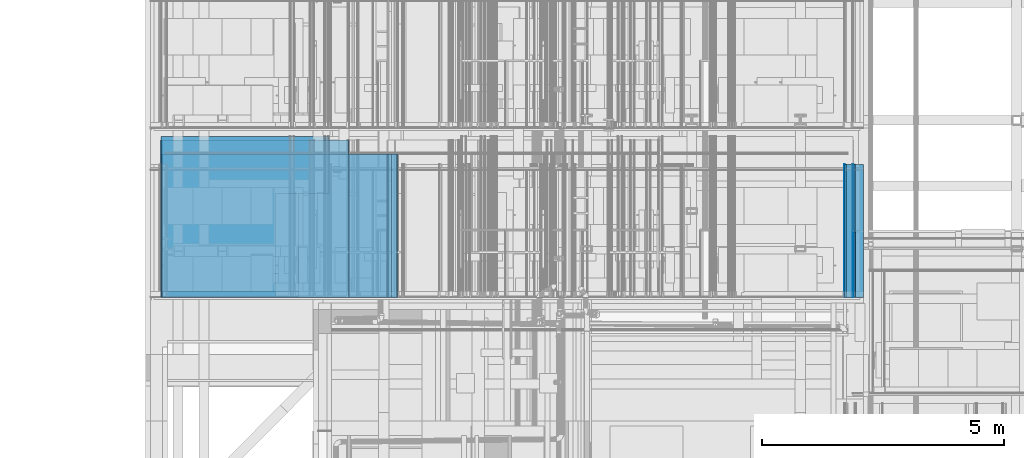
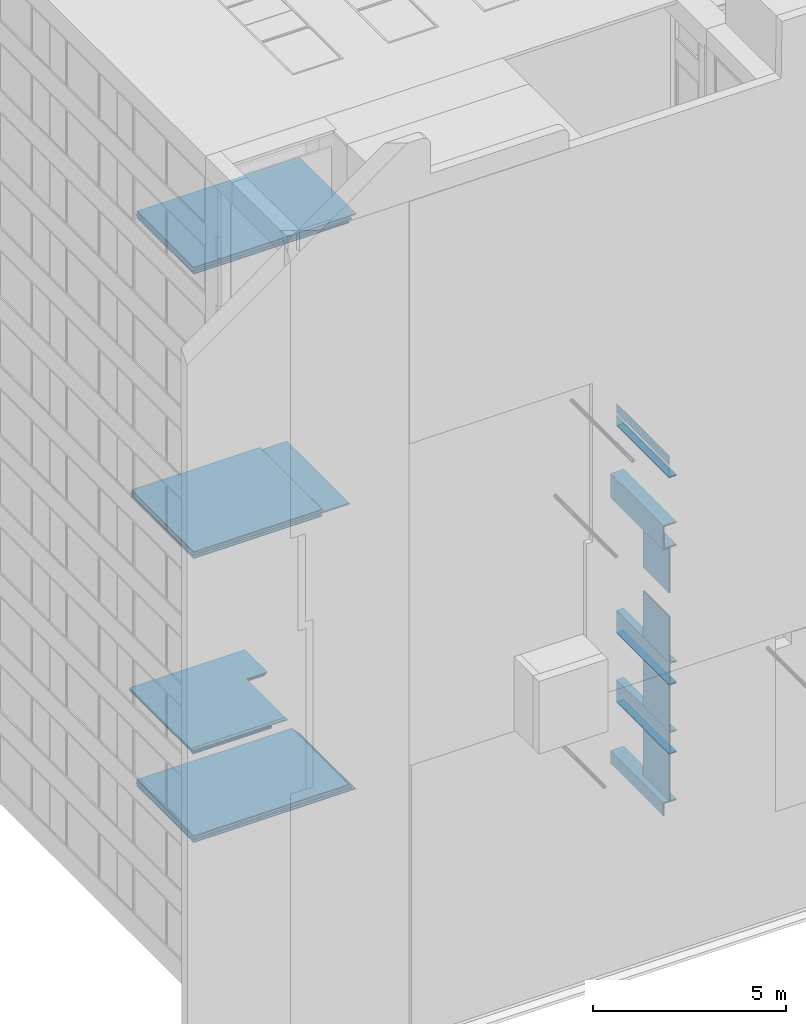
# One storey, part 56 of 583: 54 building element parts, 3 openings, 21 elements without a shape of their own.
"""IFC2X3 building model written with IfcOpenShell, lengths in metres."""

from ifc_helpers import new_model, entity, si_unit, converted_unit, derived_unit, money_unit, direction, frame, frame_2d, origin_with_axes, place, context, subcontext, project, spatial, polyline, rectangle, outline, extrude, material, type_object, element, aggregate, save


model = new_model("IFC2X3")

# Units and contexts
model_context = context("Model", 3, precision=1e-05, world=origin_with_axes(), true_north=direction((0.0, 1.0)))
body_context = subcontext(model_context, "Body", "Model", "MODEL_VIEW", scale=1.0)
ifc_project = project(units=[si_unit("LENGTHUNIT", "METRE"), si_unit("AREAUNIT", "SQUARE_METRE"), si_unit("VOLUMEUNIT", "CUBIC_METRE"), si_unit("ABSORBEDDOSEUNIT", "GRAY"), si_unit("AMOUNTOFSUBSTANCEUNIT", "MOLE"), si_unit("DOSEEQUIVALENTUNIT", "SIEVERT"), si_unit("ELECTRICCAPACITANCEUNIT", "FARAD"), si_unit("ELECTRICCHARGEUNIT", "COULOMB"), si_unit("ELECTRICCONDUCTANCEUNIT", "SIEMENS"), si_unit("ELECTRICCURRENTUNIT", "AMPERE"), si_unit("ELECTRICRESISTANCEUNIT", "OHM"), si_unit("ELECTRICVOLTAGEUNIT", "VOLT"), si_unit("ENERGYUNIT", "JOULE"), si_unit("FORCEUNIT", "NEWTON"), si_unit("FREQUENCYUNIT", "HERTZ"), si_unit("ILLUMINANCEUNIT", "LUX"), si_unit("INDUCTANCEUNIT", "HENRY"), si_unit("LUMINOUSFLUXUNIT", "LUMEN"), si_unit("LUMINOUSINTENSITYUNIT", "CANDELA"), si_unit("MAGNETICFLUXDENSITYUNIT", "TESLA"), si_unit("MAGNETICFLUXUNIT", "WEBER"), si_unit("MASSUNIT", "GRAM"), converted_unit("PLANEANGLEUNIT", "degree", entity("IfcReal", 0.0174532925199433), si_unit("PLANEANGLEUNIT", "RADIAN"), dimensions=[0, 0, 0, 0, 0, 0, 0]), si_unit("POWERUNIT", "WATT"), si_unit("PRESSUREUNIT", "PASCAL"), si_unit("RADIOACTIVITYUNIT", "BECQUEREL"), si_unit("SOLIDANGLEUNIT", "STERADIAN"), si_unit("THERMODYNAMICTEMPERATUREUNIT", "KELVIN"), si_unit("TIMEUNIT", "SECOND"), derived_unit("ACCELERATIONUNIT", [(si_unit("LENGTHUNIT", "METRE"), 1), (si_unit("TIMEUNIT", "SECOND"), -2)]), derived_unit("ANGULARVELOCITYUNIT", [(converted_unit("PLANEANGLEUNIT", "degree", entity("IfcReal", 0.0174532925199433), si_unit("PLANEANGLEUNIT", "RADIAN"), dimensions=[0, 0, 0, 0, 0, 0, 0]), 1), (si_unit("TIMEUNIT", "SECOND"), -1)]), derived_unit("CURVATUREUNIT", [(converted_unit("PLANEANGLEUNIT", "degree", entity("IfcReal", 0.0174532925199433), si_unit("PLANEANGLEUNIT", "RADIAN"), dimensions=[0, 0, 0, 0, 0, 0, 0]), 1), (si_unit("LENGTHUNIT", "METRE"), -1)]), derived_unit("DYNAMICVISCOSITYUNIT", [(si_unit("PRESSUREUNIT", "PASCAL"), 1), (si_unit("TIMEUNIT", "SECOND"), 1)]), derived_unit("HEATFLUXDENSITYUNIT", [(si_unit("POWERUNIT", "WATT"), 1), (si_unit("LENGTHUNIT", "METRE"), -2)]), derived_unit("HEATINGVALUEUNIT", [(si_unit("ENERGYUNIT", "JOULE"), 1), (si_unit("MASSUNIT", "GRAM"), -1)]), derived_unit("INTEGERCOUNTRATEUNIT", [(si_unit("TIMEUNIT", "SECOND"), -1)]), derived_unit("IONCONCENTRATIONUNIT", [(si_unit("MASSUNIT", "GRAM"), 1), (si_unit("VOLUMEUNIT", "CUBIC_METRE"), -1)]), derived_unit("ISOTHERMALMOISTURECAPACITYUNIT", [(si_unit("VOLUMEUNIT", "CUBIC_METRE"), 1), (si_unit("MASSUNIT", "GRAM"), -1)]), derived_unit("KINEMATICVISCOSITYUNIT", [(si_unit("AREAUNIT", "SQUARE_METRE"), 1), (si_unit("TIMEUNIT", "SECOND"), -1)]), derived_unit("LINEARFORCEUNIT", [(si_unit("FORCEUNIT", "NEWTON"), 1), (si_unit("LENGTHUNIT", "METRE"), -1)]), derived_unit("LINEARMOMENTUNIT", [(si_unit("FORCEUNIT", "NEWTON"), 1), (si_unit("LENGTHUNIT", "METRE"), -1)]), derived_unit("LINEARSTIFFNESSUNIT", [(si_unit("FORCEUNIT", "NEWTON"), 1), (si_unit("LENGTHUNIT", "METRE"), -1)]), derived_unit("LINEARVELOCITYUNIT", [(si_unit("LENGTHUNIT", "METRE"), 1), (si_unit("TIMEUNIT", "SECOND"), -1)]), derived_unit("LUMINOUSINTENSITYDISTRIBUTIONUNIT", [(si_unit("LUMINOUSINTENSITYUNIT", "CANDELA"), 1), (si_unit("LUMINOUSFLUXUNIT", "LUMEN"), -1)]), derived_unit("MASSDENSITYUNIT", [(si_unit("MASSUNIT", "GRAM"), 1), (si_unit("VOLUMEUNIT", "CUBIC_METRE"), -1)]), derived_unit("MASSFLOWRATEUNIT", [(si_unit("MASSUNIT", "GRAM"), 1), (si_unit("TIMEUNIT", "SECOND"), -1)]), derived_unit("MASSPERLENGTHUNIT", [(si_unit("MASSUNIT", "GRAM"), 1), (si_unit("LENGTHUNIT", "METRE"), -1)]), derived_unit("MODULUSOFELASTICITYUNIT", [(si_unit("FORCEUNIT", "NEWTON"), 1), (si_unit("AREAUNIT", "SQUARE_METRE"), -1)]), derived_unit("MODULUSOFLINEARSUBGRADEREACTIONUNIT", [(si_unit("FORCEUNIT", "NEWTON"), 1), (si_unit("LENGTHUNIT", "METRE"), -2)]), derived_unit("MODULUSOFROTATIONALSUBGRADEREACTIONUNIT", [(si_unit("FORCEUNIT", "NEWTON"), 1), (si_unit("LENGTHUNIT", "METRE"), 1)]), derived_unit("MODULUSOFSUBGRADEREACTIONUNIT", [(si_unit("FORCEUNIT", "NEWTON"), 1), (si_unit("VOLUMEUNIT", "CUBIC_METRE"), -1)]), derived_unit("MOISTUREDIFFUSIVITYUNIT", [(si_unit("VOLUMEUNIT", "CUBIC_METRE"), 1), (si_unit("TIMEUNIT", "SECOND"), -1)]), derived_unit("MOLECULARWEIGHTUNIT", [(si_unit("MASSUNIT", "GRAM"), 1), (si_unit("AMOUNTOFSUBSTANCEUNIT", "MOLE"), -1)]), derived_unit("PLANARFORCEUNIT", [(si_unit("FORCEUNIT", "NEWTON"), 1), (si_unit("LENGTHUNIT", "METRE"), -2)]), derived_unit("ROTATIONALFREQUENCYUNIT", [(si_unit("TIMEUNIT", "SECOND"), -1)]), derived_unit("ROTATIONALMASSUNIT", [(si_unit("MASSUNIT", "GRAM"), 1), (si_unit("LENGTHUNIT", "METRE"), 2)]), derived_unit("ROTATIONALSTIFFNESSUNIT", [(si_unit("FORCEUNIT", "NEWTON"), 1), (si_unit("LENGTHUNIT", "METRE"), 1), (converted_unit("PLANEANGLEUNIT", "degree", entity("IfcReal", 0.0174532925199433), si_unit("PLANEANGLEUNIT", "RADIAN"), dimensions=[0, 0, 0, 0, 0, 0, 0]), -1)]), derived_unit("SECTIONAREAINTEGRALUNIT", [(si_unit("LENGTHUNIT", "METRE"), 5)]), derived_unit("SECTIONMODULUSUNIT", [(si_unit("LENGTHUNIT", "METRE"), 3)]), derived_unit("SHEARMODULUSUNIT", [(si_unit("FORCEUNIT", "NEWTON"), 1), (si_unit("AREAUNIT", "SQUARE_METRE"), -1)]), derived_unit("SOUNDPOWERUNIT", [(si_unit("ENERGYUNIT", "JOULE"), 1), (si_unit("TIMEUNIT", "SECOND"), -1)]), derived_unit("SPECIFICHEATCAPACITYUNIT", [(si_unit("FORCEUNIT", "NEWTON"), 1), (si_unit("MASSUNIT", "GRAM"), -1), (si_unit("THERMODYNAMICTEMPERATUREUNIT", "KELVIN"), -1)]), derived_unit("TEMPERATUREGRADIENTUNIT", [(si_unit("THERMODYNAMICTEMPERATUREUNIT", "KELVIN"), 1), (si_unit("LENGTHUNIT", "METRE"), -1)]), derived_unit("THERMALADMITTANCEUNIT", [(si_unit("POWERUNIT", "WATT"), 1), (si_unit("AREAUNIT", "SQUARE_METRE"), -1), (si_unit("THERMODYNAMICTEMPERATUREUNIT", "KELVIN"), -1)]), derived_unit("THERMALCONDUCTANCEUNIT", [(si_unit("POWERUNIT", "WATT"), 1), (si_unit("LENGTHUNIT", "METRE"), -1), (si_unit("THERMODYNAMICTEMPERATUREUNIT", "KELVIN"), -1)]), derived_unit("THERMALEXPANSIONCOEFFICIENTUNIT", [(si_unit("THERMODYNAMICTEMPERATUREUNIT", "KELVIN"), -1)]), derived_unit("THERMALRESISTANCEUNIT", [(si_unit("AREAUNIT", "SQUARE_METRE"), 1), (si_unit("POWERUNIT", "WATT"), -1)]), derived_unit("THERMALTRANSMITTANCEUNIT", [(si_unit("POWERUNIT", "WATT"), 1), (si_unit("AREAUNIT", "SQUARE_METRE"), -1), (si_unit("THERMODYNAMICTEMPERATUREUNIT", "KELVIN"), -1)]), derived_unit("TORQUEUNIT", [(si_unit("FORCEUNIT", "NEWTON"), 1), (si_unit("LENGTHUNIT", "METRE"), 1)]), derived_unit("VAPORPERMEABILITYUNIT", [(si_unit("MASSUNIT", "GRAM"), 1), (si_unit("TIMEUNIT", "SECOND"), -1)]), derived_unit("VOLUMETRICFLOWRATEUNIT", [(si_unit("VOLUMEUNIT", "CUBIC_METRE"), 1), (si_unit("TIMEUNIT", "SECOND"), -1)]), derived_unit("WARPINGCONSTANTUNIT", [(si_unit("LENGTHUNIT", "METRE"), 6)]), derived_unit("WARPINGMOMENTUNIT", [(si_unit("FORCEUNIT", "NEWTON"), 1), (si_unit("LENGTHUNIT", "METRE"), 2)]), money_unit("GBP")], contexts=[model_context])

# Site, building, storey
site_placement = place(None, origin_with_axes())
site = spatial("IfcSite", under=ifc_project, at=site_placement, Name="Site", CompositionType="ELEMENT")
building_placement = place(site_placement, origin_with_axes())
building = spatial("IfcBuilding", under=site, at=building_placement, Name="Building01", CompositionType="ELEMENT")
storey_placement = place(building_placement, frame((0.0, 0.0, 20.78), z_axis=(0.0, 0.0, 1.0), x_axis=(1.0, 0.0, 0.0)))
storey = spatial("IfcBuildingStorey", under=building, at=storey_placement, Name="RL", CompositionType="ELEMENT", Elevation=20.78)

# Wall, building element parts
wall_type_1 = type_object("IfcWallType", Name="SHE_A-Walls_Type01c_Partywall_225mm_twin_tall", PredefinedType="NOTDEFINED")
wall_1_placement = place(storey_placement, frame((5.068, 5.15, 1.708), z_axis=(0.0, 1.0, 0.0), x_axis=(-1.0, 0.0, 0.0)))
wall_1 = element("IfcWall", 1, at=wall_1_placement, inside=storey, type_object=wall_type_1, Name="1C", ObjectType="SHE_A-Walls_Type01c_Partywall_225mm_twin_tall")
ifc_material_1 = material(Name="A_BSUK_Insulation")
placement_1 = place(wall_1_placement, origin_with_axes())
building_element_part_1 = element("IfcBuildingElementPart", 2, at=placement_1, material=ifc_material_1, Name="1", context=body_context, shape_type="SweptSolid", body=[
    extrude(rectangle(XDim=4.762, YDim=0.05, at=frame_2d((2.381, 0.025), x_axis=(-1.0, 0.0))), origin_with_axes(), (0.0, 0.0, 1.0), 2.95),
])
ifc_material_2 = material(Name="A_BSUK_WallInternal_Finishes_Plasterboard")
building_element_part_2 = element("IfcBuildingElementPart", 3, at=placement_1, material=ifc_material_2, Name="3", context=body_context, shape_type="SweptSolid", body=[
    extrude(outline(polyline([(4.735, 0.137), (-0.137, 0.137), (-0.122, 0.122), (4.735, 0.122), (4.735, 0.137)])), origin_with_axes(), (0.0, 0.0, 1.0), 2.95),
])
building_element_part_3 = element("IfcBuildingElementPart", 4, at=placement_1, material=ifc_material_2, Name="4", context=body_context, shape_type="SweptSolid", body=[
    extrude(outline(polyline([(4.75, 0.122), (-0.122, 0.122), (-0.107, 0.107), (4.75, 0.107), (4.75, 0.122)])), origin_with_axes(), (0.0, 0.0, 1.0), 2.95),
])
building_element_part_4 = element("IfcBuildingElementPart", 5, at=placement_1, material=ifc_material_2, Name="5", context=body_context, shape_type="SweptSolid", body=[
    extrude(outline(polyline([(4.75, -0.058), (0.058, -0.058), (0.073, -0.073), (4.75, -0.073), (4.75, -0.058)])), origin_with_axes(), (0.0, 0.0, 1.0), 2.95),
])
building_element_part_5 = element("IfcBuildingElementPart", 6, at=placement_1, material=ifc_material_2, Name="6", context=body_context, shape_type="SweptSolid", body=[
    extrude(outline(polyline([(4.735, -0.073), (0.073, -0.073), (0.088, -0.088), (4.735, -0.088), (4.735, -0.073)])), origin_with_axes(), (0.0, 0.0, 1.0), 2.95),
])
aggregate(wall_1, [building_element_part_1, building_element_part_2, building_element_part_3, building_element_part_4, building_element_part_5])

wall_2_placement = place(storey_placement, frame((4.995, 5.15, -7.2795), z_axis=(0.0, 1.0, 0.0), x_axis=(-1.0, 0.0, 0.0)))
wall_2 = element("IfcWall", 7, at=wall_2_placement, inside=storey, type_object=wall_type_1, Name="1C", ObjectType="SHE_A-Walls_Type01c_Partywall_225mm_twin_tall")
placement_2 = place(wall_2_placement, origin_with_axes())
building_element_part_6 = element("IfcBuildingElementPart", 8, at=placement_2, material=ifc_material_1, Name="1", context=body_context, shape_type="SweptSolid", body=[
    extrude(rectangle(XDim=4.689, YDim=0.05, at=frame_2d((2.3445, 0.0), x_axis=(-1.0, 0.0))), origin_with_axes(), (0.0, 0.0, 1.0), 3.24),
])
building_element_part_7 = element("IfcBuildingElementPart", 9, at=placement_2, material=ifc_material_2, Name="8", context=body_context, shape_type="SweptSolid", body=[
    extrude(rectangle(XDim=3.846428, YDim=0.015, at=frame_2d((2.738786, -0.1055), x_axis=(-1.0, 0.0))), origin_with_axes(), (0.0, 0.0, 1.0), 3.24),
])
building_element_part_8 = element("IfcBuildingElementPart", 10, at=placement_2, material=ifc_material_2, Name="9", context=body_context, shape_type="SweptSolid", body=[
    extrude(rectangle(XDim=3.876428, YDim=0.015, at=frame_2d((2.738786, -0.0905), x_axis=(-1.0, 0.0))), origin_with_axes(), (0.0, 0.0, 1.0), 3.24),
])
building_element_part_9 = element("IfcBuildingElementPart", 11, at=placement_2, material=ifc_material_2, Name="10", context=body_context, shape_type="SweptSolid", body=[
    extrude(rectangle(XDim=3.876428, YDim=0.015, at=frame_2d((2.738786, 0.0895), x_axis=(-1.0, 0.0))), origin_with_axes(), (0.0, 0.0, 1.0), 3.24),
])
building_element_part_10 = element("IfcBuildingElementPart", 12, at=placement_2, material=ifc_material_2, Name="11", context=body_context, shape_type="SweptSolid", body=[
    extrude(rectangle(XDim=3.846428, YDim=0.015, at=frame_2d((2.738786, 0.1045), x_axis=(-1.0, 0.0))), origin_with_axes(), (0.0, 0.0, 1.0), 3.24),
])
aggregate(wall_2, [building_element_part_6, building_element_part_7, building_element_part_8, building_element_part_9, building_element_part_10])

wall_3_placement = place(storey_placement, frame((0.306, 5.15, -16.258), z_axis=(0.0, 1.0, 0.0), x_axis=(1.0, 0.0, 0.0)))
wall_3 = element("IfcWall", 13, at=wall_3_placement, inside=storey, type_object=wall_type_1, Name="1C", ObjectType="SHE_A-Walls_Type01c_Partywall_225mm_twin_tall")
placement_3 = place(wall_3_placement, origin_with_axes())
building_element_part_11 = element("IfcBuildingElementPart", 14, at=placement_3, material=ifc_material_1, Name="1", context=body_context, shape_type="SweptSolid", body=[
    extrude(rectangle(XDim=4.761, YDim=0.05, at=frame_2d((2.3805, 0.025), x_axis=(-1.0, 0.0))), origin_with_axes(), (0.0, 0.0, 1.0), 2.95),
])
building_element_part_12 = element("IfcBuildingElementPart", 15, at=placement_3, material=ifc_material_2, Name="3", context=body_context, shape_type="SweptSolid", body=[
    extrude(rectangle(XDim=4.857, YDim=0.015, at=frame_2d((2.4555, 0.1295), x_axis=(-1.0, 0.0))), origin_with_axes(), (0.0, 0.0, 1.0), 2.95),
])
building_element_part_13 = element("IfcBuildingElementPart", 16, at=placement_3, material=ifc_material_2, Name="4", context=body_context, shape_type="SweptSolid", body=[
    extrude(rectangle(XDim=4.857, YDim=0.015, at=frame_2d((2.4405, 0.1145), x_axis=(-1.0, 0.0))), origin_with_axes(), (0.0, 0.0, 1.0), 2.95),
])
building_element_part_14 = element("IfcBuildingElementPart", 17, at=placement_3, material=ifc_material_2, Name="5", context=body_context, shape_type="SweptSolid", body=[
    extrude(rectangle(XDim=4.689, YDim=0.015, at=frame_2d((2.3445, -0.0655), x_axis=(-1.0, 0.0))), origin_with_axes(), (0.0, 0.0, 1.0), 2.95),
])
building_element_part_15 = element("IfcBuildingElementPart", 18, at=placement_3, material=ifc_material_2, Name="6", context=body_context, shape_type="SweptSolid", body=[
    extrude(rectangle(XDim=4.647, YDim=0.015, at=frame_2d((2.3505, -0.0805), x_axis=(-1.0, 0.0))), origin_with_axes(), (0.0, 0.0, 1.0), 2.95),
])
aggregate(wall_3, [building_element_part_11, building_element_part_12, building_element_part_13, building_element_part_14, building_element_part_15])

# Wall, openings, building element parts
wall_type_2 = type_object("IfcWallType", Name="SHE_A-Walls_Type05a_Partition_95mm_tall", PredefinedType="NOTDEFINED")
wall_4_placement = place(storey_placement, frame((3.745, 5.15, -13.52), z_axis=(0.0, 1.0, 0.0), x_axis=(-1.0, 0.0, 0.0)))
wall_4 = element("IfcWall", 19, at=wall_4_placement, inside=storey, type_object=wall_type_2, Name="5A", ObjectType="SHE_A-Walls_Type05a_Partition_95mm_tall")
opening_1_placement = place(wall_4_placement, frame((-0.490781, 0.035, -0.015), z_axis=(0.0, 0.0, 1.0), x_axis=(1.0, 0.0, 0.0)))
element("IfcOpeningElement", 20, at=opening_1_placement, cuts=wall_4, Name="Opening", ObjectType="Opening", context=body_context, shape_type="SweptSolid", body=[
    extrude(rectangle(XDim=2.142, YDim=1.084, at=frame_2d((0.542, 1.071), x_axis=(0.0, -1.0))), frame((0.0, 0.09, 0.0), z_axis=(0.0, -1.0, 0.0), x_axis=(1.0, 0.0, 0.0)), (0.0, 0.0, 1.0), 0.18),
])
opening_2_placement = place(wall_4_placement, frame((-0.490781, -0.079, 0.0), z_axis=(0.0, 0.0, 1.0), x_axis=(1.0, 0.0, 0.0)))
element("IfcOpeningElement", 21, at=opening_2_placement, cuts=wall_4, Name="Opening", ObjectType="Opening", context=body_context, shape_type="SweptSolid", body=[
    extrude(rectangle(XDim=2.142, YDim=1.084, at=frame_2d((0.542, 1.071), x_axis=(0.0, -1.0))), frame((0.0, 0.1185, 0.0), z_axis=(0.0, -1.0, 0.0), x_axis=(1.0, 0.0, 0.0)), (0.0, 0.0, 1.0), 0.237),
])
opening_3_placement = place(wall_4_placement, frame((0.087, -0.06, 0.0), z_axis=(0.0, 0.0, 1.0), x_axis=(1.0, 0.0, 0.0)))
element("IfcOpeningElement", 22, at=opening_3_placement, cuts=wall_4, Name="Opening", ObjectType="Opening", context=body_context, shape_type="SweptSolid", body=[
    extrude(rectangle(XDim=2.142, YDim=0.984, at=frame_2d((0.492, 1.071), x_axis=(0.0, -1.0))), frame((0.0, 0.09, 0.0), z_axis=(0.0, -1.0, 0.0), x_axis=(1.0, 0.0, 0.0)), (0.0, 0.0, 1.0), 0.18),
])
placement_4 = place(wall_4_placement, origin_with_axes())
building_element_part_16 = element("IfcBuildingElementPart", 23, at=placement_4, material=ifc_material_1, Name="1", context=body_context, shape_type="SweptSolid", body=[
    extrude(rectangle(XDim=3.427, YDim=0.025, at=frame_2d((1.7135, -0.0125), x_axis=(-1.0, 0.0))), origin_with_axes(), (0.0, 0.0, 1.0), 3.32),
])
ifc_material_3 = material(Name="A_BSUK_Walls_Timber")
building_element_part_17 = element("IfcBuildingElementPart", 24, at=placement_4, material=ifc_material_3, Name="2", context=body_context, shape_type="SweptSolid", body=[
    extrude(outline(polyline([(3.427, -0.06), (0.06, -0.06), (0.075, -0.075), (3.427, -0.075), (3.427, -0.06)])), frame((0.0, 0.0, 0.015), z_axis=(0.0, 0.0, 1.0), x_axis=(1.0, 0.0, 0.0)), (0.0, 0.0, 1.0), 0.1),
])
building_element_part_18 = element("IfcBuildingElementPart", 25, at=placement_4, material=ifc_material_3, Name="3", context=body_context, shape_type="SweptSolid", body=[
    extrude(outline(polyline([(3.412, 0.05), (-0.05, 0.05), (-0.035, 0.035), (3.412, 0.035), (3.412, 0.05)])), frame((0.0, 0.0, 0.015), z_axis=(0.0, 0.0, 1.0), x_axis=(1.0, 0.0, 0.0)), (0.0, 0.0, 1.0), 0.1),
])
building_element_part_19 = element("IfcBuildingElementPart", 26, at=placement_4, material=ifc_material_2, Name="4", context=body_context, shape_type="SweptSolid", body=[
    extrude(outline(polyline([(3.427, -0.048), (0.048, -0.048), (0.06, -0.06), (3.427, -0.06), (3.427, -0.048)])), origin_with_axes(), (0.0, 0.0, 1.0), 3.32),
])
building_element_part_20 = element("IfcBuildingElementPart", 27, at=placement_4, material=ifc_material_2, Name="5", context=body_context, shape_type="SweptSolid", body=[
    extrude(outline(polyline([(3.427, 0.035), (-0.035, 0.035), (-0.023, 0.023), (3.427, 0.023), (3.427, 0.035)])), origin_with_axes(), (0.0, 0.0, 1.0), 3.32),
])
aggregate(wall_4, [building_element_part_16, building_element_part_17, building_element_part_18, building_element_part_19, building_element_part_20])

# Wall, building element parts
wall_type_3 = type_object("IfcWallType", Name="SHE_A-Walls_Type06d_ExternalWallInsulation_48mm", PredefinedType="NOTDEFINED")
wall_5_placement = place(storey_placement, frame((14.63, 5.15, -9.117), z_axis=(0.0, 1.0, 0.0), x_axis=(0.0, 0.0, -1.0)))
wall_5 = element("IfcWall", 28, at=wall_5_placement, inside=storey, type_object=wall_type_3, Name="6D", ObjectType="SHE_A-Walls_Type06d_ExternalWallInsulation_48mm")
placement_5 = place(wall_5_placement, origin_with_axes())
building_element_part_21 = element("IfcBuildingElementPart", 29, at=placement_5, material=ifc_material_2, Name="4", context=body_context, shape_type="SweptSolid", body=[
    extrude(outline(polyline([(0.3, 0.048), (-0.012, 0.048), (0.001, 0.035), (0.3, 0.035), (0.3, 0.048)])), origin_with_axes(), (0.0, 0.0, 1.0), 2.74),
])
building_element_part_22 = element("IfcBuildingElementPart", 30, at=placement_5, material=ifc_material_2, Name="5", context=body_context, shape_type="SweptSolid", body=[
    extrude(outline(polyline([(0.708, 0.048), (0.371, 0.048), (0.371, 0.035), (0.695, 0.035), (0.708, 0.048)])), origin_with_axes(), (0.0, 0.0, 1.0), 2.74),
])
aggregate(wall_5, [building_element_part_21, building_element_part_22])

wall_6_placement = place(storey_placement, frame((14.8, 5.15, -9.777), z_axis=(0.0, 1.0, 0.0), x_axis=(-1.0, 0.0, 0.0)))
wall_6 = element("IfcWall", 31, at=wall_6_placement, inside=storey, type_object=wall_type_3, Name="6D", ObjectType="SHE_A-Walls_Type06d_ExternalWallInsulation_48mm")
placement_6 = place(wall_6_placement, origin_with_axes())
building_element_part_23 = element("IfcBuildingElementPart", 32, at=placement_6, material=ifc_material_1, Name="1", context=body_context, shape_type="SweptSolid", body=[
    extrude(rectangle(XDim=0.206, YDim=0.036, at=frame_2d((0.103, -0.018), x_axis=(-1.0, 0.0))), origin_with_axes(), (0.0, 0.0, 1.0), 2.74),
])
building_element_part_24 = element("IfcBuildingElementPart", 33, at=placement_6, material=ifc_material_2, Name="3", context=body_context, shape_type="SweptSolid", body=[
    extrude(outline(polyline([(0.205, -0.035), (0.0, -0.035), (0.0, -0.048), (0.218, -0.048), (0.205, -0.035)])), origin_with_axes(), (0.0, 0.0, 1.0), 2.74),
])
aggregate(wall_6, [building_element_part_23, building_element_part_24])

wall_7_placement = place(storey_placement, frame((14.8, 5.15, -11.32), z_axis=(0.0, 1.0, 0.0), x_axis=(-1.0, 0.0, 0.0)))
wall_7 = element("IfcWall", 34, at=wall_7_placement, inside=storey, type_object=wall_type_3, Name="6D", ObjectType="SHE_A-Walls_Type06d_ExternalWallInsulation_48mm")
placement_7 = place(wall_7_placement, origin_with_axes())
building_element_part_25 = element("IfcBuildingElementPart", 35, at=placement_7, material=ifc_material_1, Name="1", context=body_context, shape_type="SweptSolid", body=[
    extrude(rectangle(XDim=0.35, YDim=0.036, at=frame_2d((0.175, 0.018), x_axis=(-1.0, 0.0))), origin_with_axes(), (0.0, 0.0, 1.0), 2.74),
])
building_element_part_26 = element("IfcBuildingElementPart", 36, at=placement_7, material=ifc_material_2, Name="3", context=body_context, shape_type="SweptSolid", body=[
    extrude(outline(polyline([(0.398, 0.048), (0.0, 0.048), (0.0, 0.035), (0.385, 0.035), (0.398, 0.048)])), origin_with_axes(), (0.0, 0.0, 1.0), 2.74),
])
aggregate(wall_7, [building_element_part_25, building_element_part_26])

wall_8_placement = place(storey_placement, frame((14.45, 5.15, -11.284), z_axis=(0.0, 1.0, 0.0), x_axis=(0.0, 0.0, -1.0)))
wall_8 = element("IfcWall", 37, at=wall_8_placement, inside=storey, type_object=wall_type_3, Name="6D", ObjectType="SHE_A-Walls_Type06d_ExternalWallInsulation_48mm")
placement_8 = place(wall_8_placement, origin_with_axes())
building_element_part_27 = element("IfcBuildingElementPart", 38, at=placement_8, material=ifc_material_1, Name="1", context=body_context, shape_type="SweptSolid", body=[
    extrude(rectangle(XDim=0.742, YDim=0.036, at=frame_2d((0.371, 0.018), x_axis=(-1.0, 0.0))), origin_with_axes(), (0.0, 0.0, 1.0), 2.74),
])
building_element_part_28 = element("IfcBuildingElementPart", 39, at=placement_8, material=ifc_material_2, Name="3", context=body_context, shape_type="SweptSolid", body=[
    extrude(outline(polyline([(0.754, 0.048), (-0.012, 0.048), (0.001, 0.035), (0.741, 0.035), (0.754, 0.048)])), origin_with_axes(), (0.0, 0.0, 1.0), 2.74),
])
aggregate(wall_8, [building_element_part_27, building_element_part_28])

wall_9_placement = place(storey_placement, frame((14.45, 5.15, -11.99), z_axis=(0.0, 1.0, 0.0), x_axis=(1.0, 0.0, 0.0)))
wall_9 = element("IfcWall", 40, at=wall_9_placement, inside=storey, type_object=wall_type_3, Name="6D", ObjectType="SHE_A-Walls_Type06d_ExternalWallInsulation_48mm")
placement_9 = place(wall_9_placement, origin_with_axes())
building_element_part_29 = element("IfcBuildingElementPart", 41, at=placement_9, material=ifc_material_1, Name="1", context=body_context, shape_type="SweptSolid", body=[
    extrude(rectangle(XDim=0.35, YDim=0.036, at=frame_2d((0.175, 0.018), x_axis=(-1.0, 0.0))), origin_with_axes(), (0.0, 0.0, 1.0), 2.74),
])
building_element_part_30 = element("IfcBuildingElementPart", 42, at=placement_9, material=ifc_material_2, Name="3", context=body_context, shape_type="SweptSolid", body=[
    extrude(outline(polyline([(0.35, 0.048), (-0.048, 0.048), (-0.035, 0.035), (0.35, 0.035), (0.35, 0.048)])), origin_with_axes(), (0.0, 0.0, 1.0), 2.74),
])
aggregate(wall_9, [building_element_part_29, building_element_part_30])

wall_10_placement = place(storey_placement, frame((14.594, 5.15, -12.038), z_axis=(0.0, 1.0, 0.0), x_axis=(0.0, 0.0, -1.0)))
wall_10 = element("IfcWall", 43, at=wall_10_placement, inside=storey, type_object=wall_type_3, Name="6D", ObjectType="SHE_A-Walls_Type06d_ExternalWallInsulation_48mm")
placement_10 = place(wall_10_placement, origin_with_axes())
building_element_part_31 = element("IfcBuildingElementPart", 44, at=placement_10, material=ifc_material_1, Name="1", context=body_context, shape_type="SweptSolid", body=[
    extrude(rectangle(XDim=1.432, YDim=0.036, at=frame_2d((0.716, -0.018), x_axis=(-1.0, 0.0))), origin_with_axes(), (0.0, 0.0, 1.0), 1.35),
])
building_element_part_32 = element("IfcBuildingElementPart", 45, at=placement_10, material=ifc_material_2, Name="3", context=body_context, shape_type="SweptSolid", body=[
    extrude(rectangle(XDim=1.432, YDim=0.013, at=frame_2d((0.716, 0.0055), x_axis=(-1.0, 0.0))), origin_with_axes(), (0.0, 0.0, 1.0), 1.35),
])
aggregate(wall_10, [building_element_part_31, building_element_part_32])

wall_11_placement = place(storey_placement, frame((14.594, 5.15, -14.220124), z_axis=(0.0, 1.0, 0.0), x_axis=(0.0, 0.0, -1.0)))
wall_11 = element("IfcWall", 46, at=wall_11_placement, inside=storey, type_object=wall_type_3, Name="6D", ObjectType="SHE_A-Walls_Type06d_ExternalWallInsulation_48mm")
placement_11 = place(wall_11_placement, origin_with_axes())
building_element_part_33 = element("IfcBuildingElementPart", 47, at=placement_11, material=ifc_material_1, Name="1", context=body_context, shape_type="SweptSolid", body=[
    extrude(rectangle(XDim=1.454876, YDim=0.036, at=frame_2d((0.727438, -0.018), x_axis=(-1.0, 0.0))), origin_with_axes(), (0.0, 0.0, 1.0), 1.35),
])
building_element_part_34 = element("IfcBuildingElementPart", 48, at=placement_11, material=ifc_material_2, Name="3", context=body_context, shape_type="SweptSolid", body=[
    extrude(rectangle(XDim=1.454876, YDim=0.013, at=frame_2d((0.727438, 0.0055), x_axis=(-1.0, 0.0))), origin_with_axes(), (0.0, 0.0, 1.0), 1.35),
])
aggregate(wall_11, [building_element_part_33, building_element_part_34])

wall_12_placement = place(storey_placement, frame((14.63, 5.15, -15.687), z_axis=(0.0, 1.0, 0.0), x_axis=(1.0, 0.0, 0.0)))
wall_12 = element("IfcWall", 49, at=wall_12_placement, inside=storey, type_object=wall_type_3, Name="6D", ObjectType="SHE_A-Walls_Type06d_ExternalWallInsulation_48mm")
placement_12 = place(wall_12_placement, origin_with_axes())
building_element_part_35 = element("IfcBuildingElementPart", 50, at=placement_12, material=ifc_material_1, Name="1", context=body_context, shape_type="SweptSolid", body=[
    extrude(rectangle(XDim=0.036, YDim=0.17, at=frame_2d((0.085, 0.018), x_axis=(0.0, -1.0))), origin_with_axes(), (0.0, 0.0, 1.0), 2.74),
])
building_element_part_36 = element("IfcBuildingElementPart", 51, at=placement_12, material=ifc_material_2, Name="3", context=body_context, shape_type="SweptSolid", body=[
    extrude(outline(polyline([(-0.035, 0.001), (-0.048, -0.012), (0.17, -0.012), (0.17, 0.001), (-0.035, 0.001)])), origin_with_axes(), (0.0, 0.0, 1.0), 2.74),
])
aggregate(wall_12, [building_element_part_35, building_element_part_36])

wall_13_placement = place(storey_placement, frame((14.63, 5.15, -15.687), z_axis=(0.0, 1.0, 0.0), x_axis=(0.0, 0.0, -1.0)))
wall_13 = element("IfcWall", 52, at=wall_13_placement, inside=storey, type_object=wall_type_3, Name="6D", ObjectType="SHE_A-Walls_Type06d_ExternalWallInsulation_48mm")
placement_13 = place(wall_13_placement, origin_with_axes())
building_element_part_37 = element("IfcBuildingElementPart", 53, at=placement_13, material=ifc_material_1, Name="1", context=body_context, shape_type="SweptSolid", body=[
    extrude(rectangle(XDim=0.696, YDim=0.036, at=frame_2d((0.348, 0.018), x_axis=(-1.0, 0.0))), origin_with_axes(), (0.0, 0.0, 1.0), 2.74),
])
building_element_part_38 = element("IfcBuildingElementPart", 54, at=placement_13, material=ifc_material_2, Name="3", context=body_context, shape_type="SweptSolid", body=[
    extrude(outline(polyline([(0.708, 0.048), (-0.012, 0.048), (0.001, 0.035), (0.695, 0.035), (0.708, 0.048)])), origin_with_axes(), (0.0, 0.0, 1.0), 2.74),
])
aggregate(wall_13, [building_element_part_37, building_element_part_38])

wall_14_placement = place(storey_placement, frame((14.63, 5.15, -16.383), z_axis=(0.0, 1.0, 0.0), x_axis=(1.0, 0.0, 0.0)))
wall_14 = element("IfcWall", 55, at=wall_14_placement, inside=storey, type_object=wall_type_3, Name="6D", ObjectType="SHE_A-Walls_Type06d_ExternalWallInsulation_48mm")
placement_14 = place(wall_14_placement, origin_with_axes())
building_element_part_39 = element("IfcBuildingElementPart", 56, at=placement_14, material=ifc_material_1, Name="1", context=body_context, shape_type="SweptSolid", body=[
    extrude(rectangle(XDim=0.036, YDim=0.17, at=frame_2d((0.085, -0.018), x_axis=(0.0, -1.0))), origin_with_axes(), (0.0, 0.0, 1.0), 2.74),
])
building_element_part_40 = element("IfcBuildingElementPart", 57, at=placement_14, material=ifc_material_2, Name="3", context=body_context, shape_type="SweptSolid", body=[
    extrude(outline(polyline([(-0.048, 0.012), (-0.035, -0.001), (0.17, -0.001), (0.17, 0.012), (-0.048, 0.012)])), origin_with_axes(), (0.0, 0.0, 1.0), 2.74),
])
aggregate(wall_14, [building_element_part_39, building_element_part_40])

wall_15_placement = place(storey_placement, frame((14.594, 5.15, -16.395), z_axis=(0.0, 1.0, 0.0), x_axis=(0.0, 0.0, -1.0)))
wall_15 = element("IfcWall", 58, at=wall_15_placement, inside=storey, type_object=wall_type_3, Name="6D", ObjectType="SHE_A-Walls_Type06d_ExternalWallInsulation_48mm")
placement_15 = place(wall_15_placement, origin_with_axes())
building_element_part_41 = element("IfcBuildingElementPart", 59, at=placement_15, material=ifc_material_1, Name="1", context=body_context, shape_type="SweptSolid", body=[
    extrude(rectangle(XDim=1.47, YDim=0.036, at=frame_2d((0.735, -0.018), x_axis=(-1.0, 0.0))), origin_with_axes(), (0.0, 0.0, 1.0), 1.35),
])
building_element_part_42 = element("IfcBuildingElementPart", 60, at=placement_15, material=ifc_material_2, Name="3", context=body_context, shape_type="SweptSolid", body=[
    extrude(rectangle(XDim=1.47, YDim=0.013, at=frame_2d((0.735, 0.0055), x_axis=(-1.0, 0.0))), origin_with_axes(), (0.0, 0.0, 1.0), 1.35),
])
aggregate(wall_15, [building_element_part_41, building_element_part_42])

wall_16_placement = place(storey_placement, frame((14.63, 5.15, -17.877), z_axis=(0.0, 1.0, 0.0), x_axis=(1.0, 0.0, 0.0)))
wall_16 = element("IfcWall", 61, at=wall_16_placement, inside=storey, type_object=wall_type_3, Name="6D", ObjectType="SHE_A-Walls_Type06d_ExternalWallInsulation_48mm")
placement_16 = place(wall_16_placement, origin_with_axes())
building_element_part_43 = element("IfcBuildingElementPart", 62, at=placement_16, material=ifc_material_1, Name="1", context=body_context, shape_type="SweptSolid", body=[
    extrude(rectangle(XDim=0.036, YDim=0.17, at=frame_2d((0.085, 0.018), x_axis=(0.0, -1.0))), origin_with_axes(), (0.0, 0.0, 1.0), 2.74),
])
building_element_part_44 = element("IfcBuildingElementPart", 63, at=placement_16, material=ifc_material_2, Name="3", context=body_context, shape_type="SweptSolid", body=[
    extrude(outline(polyline([(-0.035, 0.001), (-0.048, -0.012), (0.17, -0.012), (0.17, 0.001), (-0.035, 0.001)])), origin_with_axes(), (0.0, 0.0, 1.0), 2.74),
])
aggregate(wall_16, [building_element_part_43, building_element_part_44])

wall_17_placement = place(storey_placement, frame((14.63, 5.15, -17.877), z_axis=(0.0, 1.0, 0.0), x_axis=(0.0, 0.0, -1.0)))
wall_17 = element("IfcWall", 64, at=wall_17_placement, inside=storey, type_object=wall_type_3, Name="6D", ObjectType="SHE_A-Walls_Type06d_ExternalWallInsulation_48mm")
placement_17 = place(wall_17_placement, origin_with_axes())
building_element_part_45 = element("IfcBuildingElementPart", 65, at=placement_17, material=ifc_material_1, Name="1", context=body_context, shape_type="SweptSolid", body=[
    extrude(rectangle(XDim=0.696, YDim=0.036, at=frame_2d((0.348, 0.018), x_axis=(-1.0, 0.0))), origin_with_axes(), (0.0, 0.0, 1.0), 2.74),
])
building_element_part_46 = element("IfcBuildingElementPart", 66, at=placement_17, material=ifc_material_2, Name="3", context=body_context, shape_type="SweptSolid", body=[
    extrude(outline(polyline([(0.708, 0.048), (-0.012, 0.048), (0.001, 0.035), (0.695, 0.035), (0.708, 0.048)])), origin_with_axes(), (0.0, 0.0, 1.0), 2.74),
])
aggregate(wall_17, [building_element_part_45, building_element_part_46])

wall_18_placement = place(storey_placement, frame((14.63, 5.15, -18.573), z_axis=(0.0, 1.0, 0.0), x_axis=(1.0, 0.0, 0.0)))
wall_18 = element("IfcWall", 67, at=wall_18_placement, inside=storey, type_object=wall_type_3, Name="6D", ObjectType="SHE_A-Walls_Type06d_ExternalWallInsulation_48mm")
placement_18 = place(wall_18_placement, origin_with_axes())
building_element_part_47 = element("IfcBuildingElementPart", 68, at=placement_18, material=ifc_material_1, Name="1", context=body_context, shape_type="SweptSolid", body=[
    extrude(rectangle(XDim=0.036, YDim=0.17, at=frame_2d((0.085, -0.018), x_axis=(0.0, -1.0))), origin_with_axes(), (0.0, 0.0, 1.0), 2.74),
])
building_element_part_48 = element("IfcBuildingElementPart", 69, at=placement_18, material=ifc_material_2, Name="3", context=body_context, shape_type="SweptSolid", body=[
    extrude(outline(polyline([(-0.048, 0.012), (-0.035, -0.001), (0.17, -0.001), (0.17, 0.012), (-0.048, 0.012)])), origin_with_axes(), (0.0, 0.0, 1.0), 2.74),
])
aggregate(wall_18, [building_element_part_47, building_element_part_48])

wall_19_placement = place(storey_placement, frame((14.594, 5.15, -18.585), z_axis=(0.0, 1.0, 0.0), x_axis=(0.0, 0.0, -1.0)))
wall_19 = element("IfcWall", 70, at=wall_19_placement, inside=storey, type_object=wall_type_3, Name="6D", ObjectType="SHE_A-Walls_Type06d_ExternalWallInsulation_48mm")
placement_19 = place(wall_19_placement, origin_with_axes())
building_element_part_49 = element("IfcBuildingElementPart", 71, at=placement_19, material=ifc_material_1, Name="1", context=body_context, shape_type="SweptSolid", body=[
    extrude(rectangle(XDim=1.47, YDim=0.036, at=frame_2d((0.735, -0.018), x_axis=(-1.0, 0.0))), origin_with_axes(), (0.0, 0.0, 1.0), 1.35),
])
building_element_part_50 = element("IfcBuildingElementPart", 72, at=placement_19, material=ifc_material_2, Name="3", context=body_context, shape_type="SweptSolid", body=[
    extrude(rectangle(XDim=1.47, YDim=0.013, at=frame_2d((0.735, 0.0055), x_axis=(-1.0, 0.0))), origin_with_axes(), (0.0, 0.0, 1.0), 1.35),
])
aggregate(wall_19, [building_element_part_49, building_element_part_50])

wall_20_placement = place(storey_placement, frame((14.800002, 5.15, -20.103), z_axis=(0.0, 1.0, 0.0), x_axis=(-1.0, 0.0, 0.0)))
wall_20 = element("IfcWall", 73, at=wall_20_placement, inside=storey, type_object=wall_type_3, Name="6D", ObjectType="SHE_A-Walls_Type06d_ExternalWallInsulation_48mm")
placement_20 = place(wall_20_placement, origin_with_axes())
building_element_part_51 = element("IfcBuildingElementPart", 74, at=placement_20, material=ifc_material_1, Name="1", context=body_context, shape_type="SweptSolid", body=[
    extrude(rectangle(XDim=0.350002, YDim=0.036, at=frame_2d((0.175001, 0.018), x_axis=(-1.0, 0.0))), origin_with_axes(), (0.0, 0.0, 1.0), 2.74),
])
building_element_part_52 = element("IfcBuildingElementPart", 75, at=placement_20, material=ifc_material_2, Name="3", context=body_context, shape_type="SweptSolid", body=[
    extrude(outline(polyline([(0.398002, 0.048), (0.0, 0.048), (0.0, 0.035), (0.385002, 0.035), (0.398002, 0.048)])), origin_with_axes(), (0.0, 0.0, 1.0), 2.74),
])
aggregate(wall_20, [building_element_part_51, building_element_part_52])

wall_21_placement = place(storey_placement, frame((14.45, 5.15, -20.067), z_axis=(0.0, 1.0, 0.0), x_axis=(0.0, 0.0, -1.0)))
wall_21 = element("IfcWall", 76, at=wall_21_placement, inside=storey, type_object=wall_type_3, Name="6D", ObjectType="SHE_A-Walls_Type06d_ExternalWallInsulation_48mm")
placement_21 = place(wall_21_placement, origin_with_axes())
building_element_part_53 = element("IfcBuildingElementPart", 77, at=placement_21, material=ifc_material_1, Name="1", context=body_context, shape_type="SweptSolid", body=[
    extrude(rectangle(XDim=0.407, YDim=0.036, at=frame_2d((0.2035, 0.018), x_axis=(-1.0, 0.0))), origin_with_axes(), (0.0, 0.0, 1.0), 2.74),
])
building_element_part_54 = element("IfcBuildingElementPart", 78, at=placement_21, material=ifc_material_2, Name="3", context=body_context, shape_type="SweptSolid", body=[
    extrude(outline(polyline([(0.395, 0.048), (-0.012, 0.048), (0.001, 0.035), (0.395, 0.035), (0.395, 0.048)])), origin_with_axes(), (0.0, 0.0, 1.0), 2.74),
])
aggregate(wall_21, [building_element_part_53, building_element_part_54])

save(model, "model.ifc")
